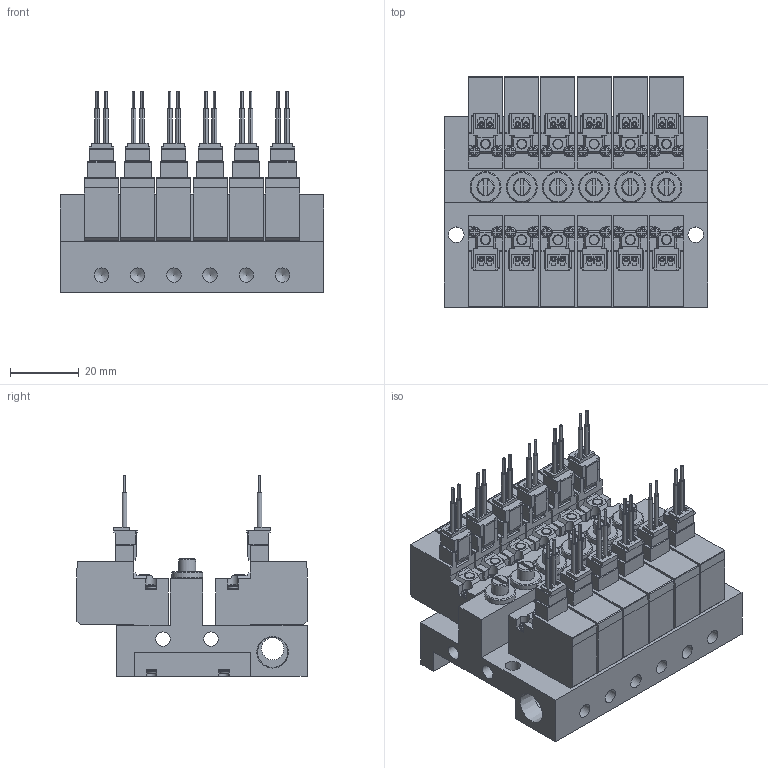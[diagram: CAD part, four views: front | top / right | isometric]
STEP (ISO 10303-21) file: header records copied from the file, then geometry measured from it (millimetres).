
FILE_DESCRIPTION(('STEP AP203'),'1');
FILE_NAME('1-NO(NC)-4EZ-M06.stp','2025-05-08T08:50:57',(' '),(' '),'Spatial InterOp 3D',' ',' ');
FILE_SCHEMA(('CONFIG_CONTROL_DESIGN'));
Length unit declared in the file: millimetre
Products named in the file (92): PV1※1-NO(NC)-4EZ-M06; BODY; PLATE; NEEDLE; BOLT; SOLENOID VALVE VOLTAGE PV; 42; 45; 48; 51
Assembly tree (91 placements, depth 3):
  PV1※1-NO(NC)-4EZ-M06
    BODY
    PLATE
    PLATE
    NEEDLE
    BOLT
    BOLT
    BOLT
    BOLT
    BOLT
    BOLT
    SOLENOID VALVE VOLTAGE PV
      42
      45
      48
      51
    SOLENOID VALVE VOLTAGE PV
      42
      45
      48
      51
    SOLENOID VALVE VOLTAGE PV
      42
      45
      48
      51
    NEEDLE
    SOLENOID VALVE VOLTAGE PV
      42
      45
      48
      51
    SOLENOID VALVE VOLTAGE PV
      42
      45
      48
      51
    NEEDLE
    SOLENOID VALVE VOLTAGE PV
      42
      45
      48
      51
    PLATE
    BOLT
    BOLT
    BOLT
    PLATE
    BOLT
    BOLT
    BOLT
    SOLENOID VALVE VOLTAGE PV
      42
      45
      48
      51
    NEEDLE
    SOLENOID VALVE VOLTAGE PV
      42
      45
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Bounding box: 76.5 x 66.8 x 58.25 mm (x, y, z)
Volume: 119039.8 mm3; surface area: 67357.7 mm2
Topology: 79 solids, 79 shells, 2899 faces, 8234 edges, 5681 vertices
Faces by surface type: plane 2044, cylinder 577, torus 156, bspline 84, cone 38
Full cylindrical faces by diameter (mm): 2 x18, 3 x18, 4.2 x14, 4.5 x2, 5 x6, 6.5 x1, 8.797 x2, 9 x6
Entity records: 100302 total; most frequent: CARTESIAN_POINT 18329, DIRECTION 16466, ORIENTED_EDGE 16076, EDGE_CURVE 8038, AXIS2_PLACEMENT_3D 5701, VERTEX_POINT 5620, LINE 5064, VECTOR 5064
